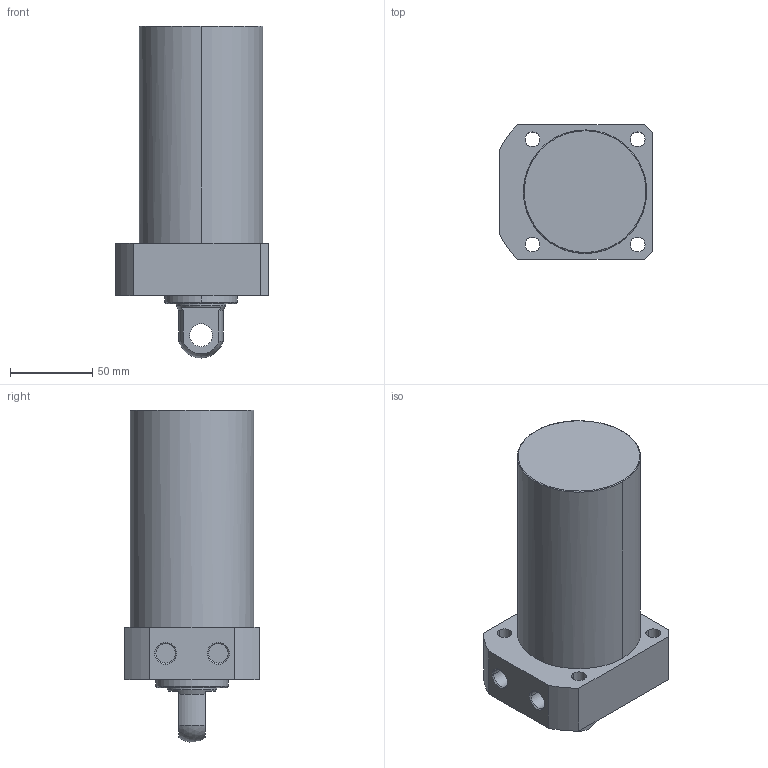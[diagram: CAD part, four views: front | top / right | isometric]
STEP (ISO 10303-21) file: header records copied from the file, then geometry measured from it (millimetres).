
FILE_DESCRIPTION((' '),'2;1');
FILE_NAME( 'TLLR-075CP-095.STEP.stp', '2025-10-24T16:35:15', (' '), ('--- Datakit www.datakit.com---'), ' Datakit CrossCadWare V2024.1 Dec 21 2023', 'Mastercam 2025', ' ');
FILE_SCHEMA(('AUTOMOTIVE_DESIGN { 1 0 10303 214 1 1 1 1 }'));
Length unit declared in the file: millimetre
Products named in the file (1): TLLR-075CP-095
Bounding box: 93 x 82 x 201.9 mm (x, y, z)
Volume: 826608.2 mm3; surface area: 64340.3 mm2
Topology: 1 solids, 1 shells, 57 faces, 164 edges, 116 vertices
Faces by surface type: cylinder 28, plane 18, cone 8, torus 2, sphere 1
Entity records: 2006 total; most frequent: DIRECTION 378, CARTESIAN_POINT 350, ORIENTED_EDGE 328, EDGE_CURVE 164, AXIS2_PLACEMENT_3D 160, VERTEX_POINT 116, CIRCLE 102, EDGE_LOOP 74
